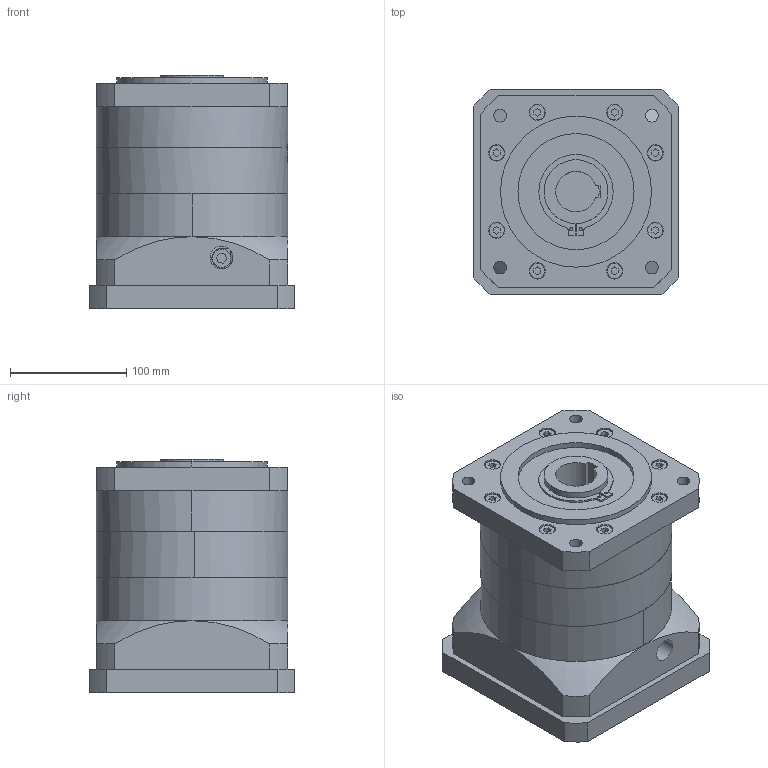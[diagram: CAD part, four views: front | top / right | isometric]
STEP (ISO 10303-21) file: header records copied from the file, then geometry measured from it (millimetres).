
FILE_DESCRIPTION (( 'STEP AP203' ), '1' );
FILE_NAME ('PLB160-L1-35-114.3-200.STEP', '2022-07-21T09:46:53', ( 'Windows User' ), ( 'P R C' ), 'SwSTEP 2.0', 'SolidWorks 2016', '' );
FILE_SCHEMA (( 'CONFIG_CONTROL_DESIGN' ));
Length unit declared in the file: millimetre
Products named in the file (7): PBF160 內齿圈-孔输出_一级内齿圈; PBF160奻屳唳-謂35-B10; GB／T276-94深沟球轴承6011-2RZ; PBF160帣釱-LR66; PBF160-蟀諉啣_2; PLB160-L1-35-114.3-200; GB／T70．1-2000内六角圆柱头螺钉M10×35
Assembly tree (7 placements, depth 2):
  PLB160-L1-35-114.3-200
    GB／T70．1-2000内六角圆柱头螺钉M10×35  x2
    PBF160 內齿圈-孔输出_一级内齿圈
    PBF160奻屳唳-謂35-B10
    GB／T276-94深沟球轴承6011-2RZ
    PBF160帣釱-LR66
    PBF160-蟀諉啣_2
Bounding box: 176 x 176 x 201 mm (x, y, z)
Volume: 3925030.5 mm3; surface area: 444609.8 mm2
Topology: 7 solids, 15 shells, 1187 faces, 3194 edges, 2107 vertices
Faces by surface type: plane 645, cylinder 223, bspline 164, sphere 83, torus 56, cone 16
Entity records: 48106 total; most frequent: CARTESIAN_POINT 19229, ORIENTED_EDGE 6206, DIRECTION 5244, EDGE_CURVE 3103, VERTEX_POINT 2053, AXIS2_PLACEMENT_3D 1824, VECTOR 1596, LINE 1596
